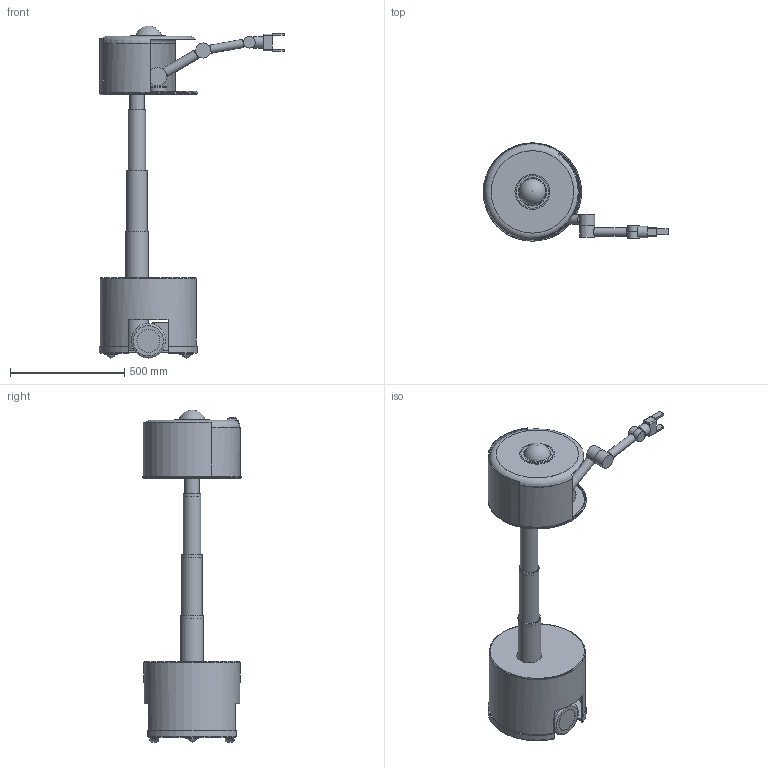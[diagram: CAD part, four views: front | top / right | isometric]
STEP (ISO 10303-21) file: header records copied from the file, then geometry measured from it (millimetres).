
FILE_DESCRIPTION(('Open CASCADE Model'),'2;1');
FILE_NAME('Open CASCADE Shape Model','2026-10-19T19:48:08',('Author'),( 'Open CASCADE'),'Open CASCADE STEP processor 7.9','Open CASCADE 7.9' ,'Unknown');
FILE_SCHEMA(('AUTOMOTIVE_DESIGN { 1 0 10303 214 1 1 1 1 }'));
Length unit declared in the file: millimetre
Products named in the file (51): HR1_home_robot; base_shell; base_bumper; base_chassis_plate; wheel_tire_L; wheel_hub_L; drive_motor_L; motor_bracket_L; wheel_tire_R; wheel_hub_R; drive_motor_R; motor_bracket_R; caster_housing_F; caster_ball_F; caster_housing_B; caster_ball_B; battery_pack; electronics_tray; column_stage0; column_flange; column_stage1; column_bushing1; column_stage2; column_bushing2; column_stage3; column_bushing3; column_actuator; upper_shell; upper_base_plate; upper_bridge; upper_post_L; upper_post_R; arm_door; door_track; dome_trim; dome_light; camera_pan_base; camera_eye; camera_lens; camera_dome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
Assembly tree (50 placements, depth 2):
  HR1_home_robot
    base_shell
    base_bumper
    base_chassis_plate
    wheel_tire_L
    wheel_hub_L
    drive_motor_L
    motor_bracket_L
    wheel_tire_R
    wheel_hub_R
    drive_motor_R
    motor_bracket_R
    caster_housing_F
    caster_ball_F
    caster_housing_B
    caster_ball_B
    battery_pack
    electronics_tray
    column_stage0
    column_flange
    column_stage1
    column_bushing1
    column_stage2
    column_bushing2
    column_stage3
    column_bushing3
    column_actuator
    upper_shell
    upper_base_plate
    upper_bridge
    upper_post_L
    upper_post_R
    arm_door
    door_track
    dome_trim
    dome_light
    camera_pan_base
    camera_eye
    camera_lens
    camera_dome
    arm_j1_actuator
    arm_turret
    arm_j2_actuator
    arm_upper_link
    arm_j3_actuator
    arm_fore_link
    arm_j4_actuator
    arm_j5_actuator
    gripper_body
    gripper_finger_L
    gripper_finger_R
Bounding box: 811.07 x 430 x 1450 mm (x, y, z)
Volume: 13287649.1 mm3; surface area: 4331721 mm2
Topology: 52 solids, 52 shells, 265 faces, 482 edges, 312 vertices
Faces by surface type: plane 159, cylinder 91, torus 10, sphere 5
Full cylindrical faces by diameter (mm): 8 x1, 18 x1, 22 x4, 28 x1, 36 x1, 42 x1, 50 x3, 56 x2, 58 x1, 60 x4, 64 x2, 66 x2, 70 x3, 76 x2, 80 x4, 82 x2, 88 x2, 94 x2, 96 x1, 100 x9, 108 x2, 118 x1, 124 x1, 140 x1, 142 x2, 150 x4, 152 x1, 412 x1, 414 x2, 418 x1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
Entity records: 14166 total; most frequent: CARTESIAN_POINT 2806, DIRECTION 2035, ORIENTED_EDGE 942, PCURVE 942, DEFINITIONAL_REPRESENTATION 942, LINE 905, VECTOR 905, AXIS2_PLACEMENT_3D 516
